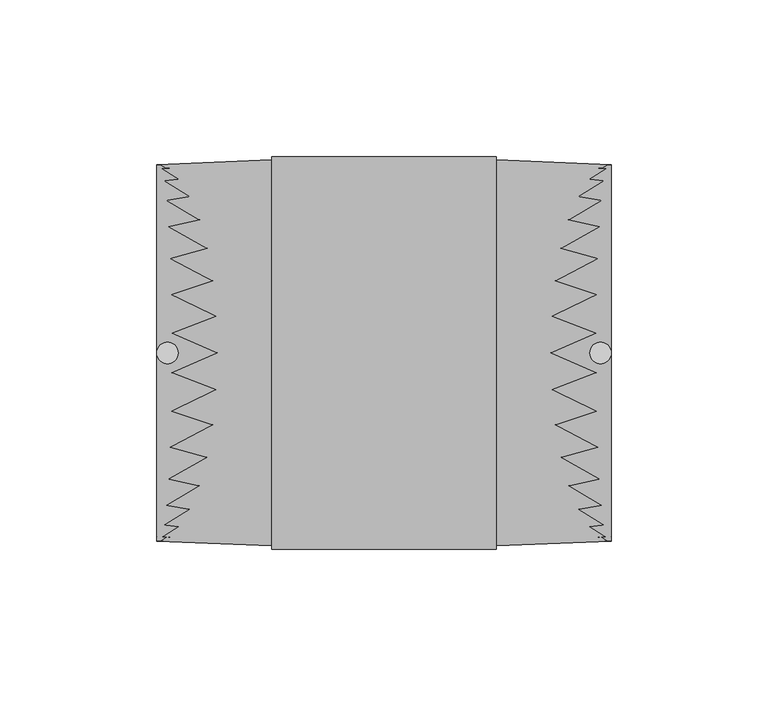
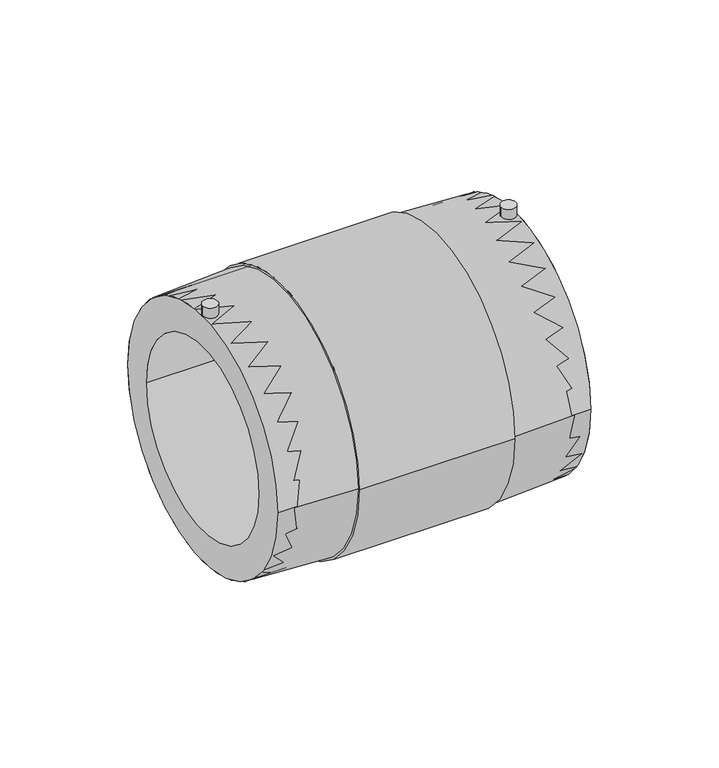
"""IFC4 building model written with IfcOpenShell, lengths in millimetres: pipe fitting geometry, EGB_VASEN_ PPR_Manguito electrosoldable WXRD100 : Manguito electrosoldable WXRD100."""

from ifc_helpers import new_model, si_unit, point, frame, frame_2d, origin, origin_2d, place, context, project, spatial, polyline, circle_curve, trimmed, segment, composite_curve, outline, extrude, source, transform, mapped, element, save
from ifc_brep_helpers import plane_surface, cylinder_surface, revolved_surface, advanced_brep


def pipe_fitting_8d5d3ec7(model_context):
    return source(origin(), model_context, "Body", "SolidModel", [
        extrude(outline(composite_curve([segment(trimmed(circle_curve(origin_2d(), 60.0), [point((-60.0, 0.0))], [point((60.0, 0.0))], False, "CARTESIAN"), True, "CONTINUOUS"), segment(trimmed(circle_curve(origin_2d(), 60.0), [point((60.0, 0.0))], [point((-60.0, 0.0))], False, "CARTESIAN"), True, "CONTINUOUS")], self_intersect=False), holes=[composite_curve([segment(trimmed(circle_curve(origin_2d(), 45.0), [point((-45.0, 0.0))], [point((45.0, 0.0))], True, "CARTESIAN"), True, "CONTINUOUS"), segment(trimmed(circle_curve(origin_2d(), 45.0), [point((45.0, 0.0))], [point((-45.0, 0.0))], True, "CARTESIAN"), True, "CONTINUOUS")], self_intersect=False)]), frame((-72.5, 0.0, 0.0), z_axis=(1.0, 0.0, 0.0), x_axis=(0.0, 1.0, 0.0)), (0.0, 0.0, 1.0), 145.0),
        extrude(outline(composite_curve([segment(trimmed(circle_curve(frame_2d((-69.0878802, 0.0)), 3.4121198), [point((-72.5, 0.0))], [point((-65.6757605, 0.0))], False, "CARTESIAN"), True, "CONTINUOUS"), segment(trimmed(circle_curve(frame_2d((-69.0878802, 0.0)), 3.4121198), [point((-65.6757605, 0.0))], [point((-72.5, 0.0))], False, "CARTESIAN"), True, "CONTINUOUS")], self_intersect=False)), frame((0.0, 0.0, 47.0), z_axis=(0.0, 0.0, 1.0), x_axis=(1.0, 0.0, 0.0)), (0.0, 0.0, 1.0), 18.0),
        extrude(outline(composite_curve([segment(trimmed(circle_curve(frame_2d((69.0878802, 0.0)), 3.4121198), [point((65.6757605, 0.0))], [point((72.5, 0.0))], False, "CARTESIAN"), True, "CONTINUOUS"), segment(trimmed(circle_curve(frame_2d((69.0878802, 0.0)), 3.4121198), [point((72.5, 0.0))], [point((65.6757605, 0.0))], False, "CARTESIAN"), True, "CONTINUOUS")], self_intersect=False)), frame((0.0, 0.0, 47.0), z_axis=(0.0, 0.0, 1.0), x_axis=(1.0, 0.0, 0.0)), (0.0, 0.0, 1.0), 18.0),
        advanced_brep(
        [(35.85, -61.582849, 0.0), (35.85, 61.582849, 0.0), (72.5, 60.0, 0.0), (72.5, -60.0, 0.0), (35.85, -62.582849, 0.0), (35.85, 62.582849, 0.0), (-35.85, -62.582849, 0.0), (-35.85, 62.582849, 0.0), (-35.85, -61.582849, 0.0), (-35.85, 61.582849, 0.0), (-72.5, -60.0, 0.0), (-72.5, 60.0, 0.0)],
        [
            (0, 1, circle_curve(frame((35.85, 0.0, 0.0), z_axis=(1.0, 0.0, 0.0), x_axis=(0.0, 1.0, 0.0)), 61.582849)),
            (1, 2),
            (2, 3, circle_curve(frame((72.5, 0.0, 0.0), z_axis=(-1.0, 0.0, 0.0), x_axis=(0.0, 1.0, 0.0)), 60.0)),
            (3, 0),
            (1, 0, circle_curve(frame((35.85, 0.0, 0.0), z_axis=(1.0, 0.0, 0.0), x_axis=(0.0, 1.0, 0.0)), 61.582849)),
            (3, 2, circle_curve(frame((72.5, 0.0, 0.0), z_axis=(-1.0, 0.0, 0.0), x_axis=(0.0, 1.0, 0.0)), 60.0)),
            (4, 5, circle_curve(frame((35.85, 0.0, 0.0), z_axis=(1.0, 0.0, 0.0), x_axis=(0.0, 1.0, 0.0)), 62.582849)),
            (5, 1),
            (0, 4),
            (5, 4, circle_curve(frame((35.85, 0.0, 0.0), z_axis=(1.0, 0.0, 0.0), x_axis=(0.0, 1.0, 0.0)), 62.582849)),
            (6, 7, circle_curve(frame((-35.85, 0.0, 0.0), z_axis=(1.0, 0.0, 0.0), x_axis=(0.0, 1.0, 0.0)), 62.582849)),
            (7, 5),
            (4, 6),
            (7, 6, circle_curve(frame((-35.85, 0.0, 0.0), z_axis=(1.0, 0.0, 0.0), x_axis=(0.0, 1.0, 0.0)), 62.582849)),
            (8, 9, circle_curve(frame((-35.85, 0.0, 0.0), z_axis=(1.0, 0.0, 0.0), x_axis=(0.0, 1.0, 0.0)), 61.582849)),
            (9, 7),
            (6, 8),
            (9, 8, circle_curve(frame((-35.85, 0.0, 0.0), z_axis=(1.0, 0.0, 0.0), x_axis=(0.0, 1.0, 0.0)), 61.582849)),
            (10, 11, circle_curve(frame((-72.5, 0.0, 0.0), z_axis=(1.0, 0.0, 0.0), x_axis=(0.0, 1.0, 0.0)), 60.0)),
            (11, 9),
            (8, 10),
            (11, 10, circle_curve(frame((-72.5, 0.0, 0.0), z_axis=(1.0, 0.0, 0.0), x_axis=(0.0, 1.0, 0.0)), 60.0)),
            (2, 11),
            (10, 3),
        ],
        [
            revolved_surface(polyline([(72.5, 60.0, 0.0), (35.85, 61.582849, 0.0)]), (-66.2721997, 0.0, 0.0), (-1.0, 0.0, 0.0)),
            plane_surface(frame((35.85, 0.0, 0.0), z_axis=(1.0, 0.0, 0.0), x_axis=(0.0, 1.0, 0.0))),
            cylinder_surface(frame((-66.2721997, 0.0, 0.0), z_axis=(-1.0, 0.0, 0.0), x_axis=(0.0, 1.0, 0.0)), 62.582849),
            plane_surface(frame((-35.85, 0.0, 0.0), z_axis=(-1.0, 0.0, 0.0), x_axis=(0.0, 1.0, 0.0))),
            revolved_surface(polyline([(-35.85, 61.582849, 0.0), (-72.5, 60.0, 0.0)]), (-66.2721997, 0.0, 0.0), (-1.0, 0.0, 0.0)),
            revolved_surface(polyline([(-72.5, 60.0, 0.0), (72.49999999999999, 60.0, 0.0)]), (-66.2721997, 0.0, 0.0), (-1.0, 0.0, 0.0)),
        ],
        [
            (0, [[1, 2, 3, 4]]),
            (0, [[5, -4, 6, -2]]),
            (1, [[7, 8, -1, 9]]),
            (1, [[10, -9, -5, -8]]),
            (2, [[11, 12, -7, 13]]),
            (2, [[14, -13, -10, -12]]),
            (3, [[15, 16, -11, 17]]),
            (3, [[18, -17, -14, -16]]),
            (4, [[19, 20, -15, 21]]),
            (4, [[22, -21, -18, -20]]),
            (5, [[-3, 23, -19, 24]]),
            (5, [[-6, -24, -22, -23]]),
        ],
    ),
    ])


if __name__ == "__main__":
    model = new_model("IFC4")
    model_context = context("Model", 3, world=origin())
    ifc_project = project(units=[si_unit("LENGTHUNIT", "METRE", prefix="MILLI")], contexts=[model_context])
    site = spatial("IfcSite", under=ifc_project)
    building = spatial("IfcBuilding", under=site)
    placement = place(None, origin())
    pipe_fitting_shape = pipe_fitting_8d5d3ec7(model_context)
    element("IfcPipeFitting", 1, ObjectType="EGB_VASEN_ PPR_Manguito electrosoldable WXRD100 : Manguito electrosoldable WXRD100", at=placement, inside=building, context=model_context, shape_type="MappedRepresentation", body=[
        mapped(pipe_fitting_shape, transform((0.0, 0.0, 0.0), x_axis=(1.0, 0.0, 0.0), y_axis=(0.0, 1.0, 0.0), z_axis=(0.0, 0.0, 1.0))),
    ])
    save(model, "model.ifc")
